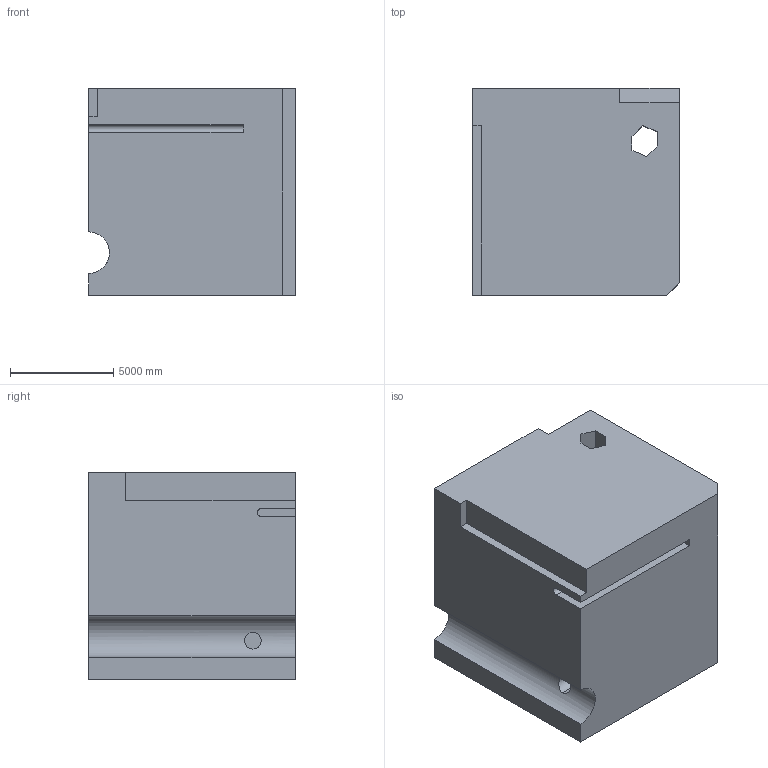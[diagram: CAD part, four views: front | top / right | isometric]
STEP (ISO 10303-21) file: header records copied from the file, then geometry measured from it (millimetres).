
FILE_DESCRIPTION (( 'STEP AP203' ), '1' );
FILE_NAME ('77.STEP', '2022-09-01T14:15:26', ( 'user' ), ( '' ), 'SwSTEP 2.0', 'SolidWorks 2021', '' );
FILE_SCHEMA (( 'CONFIG_CONTROL_DESIGN' ));
Length unit declared in the file: centimetre
Products named in the file (1): 77
Bounding box: 10000 x 10000 x 10000 mm (x, y, z)
Volume: 945543418397.3 mm3; surface area: 678473503 mm2
Topology: 1 solids, 1 shells, 31 faces, 84 edges, 56 vertices
Faces by surface type: plane 25, cylinder 6
Entity records: 1274 total; most frequent: CARTESIAN_POINT 401, ORIENTED_EDGE 168, DIRECTION 156, EDGE_CURVE 84, VECTOR 72, LINE 72, VERTEX_POINT 56, AXIS2_PLACEMENT_3D 42
